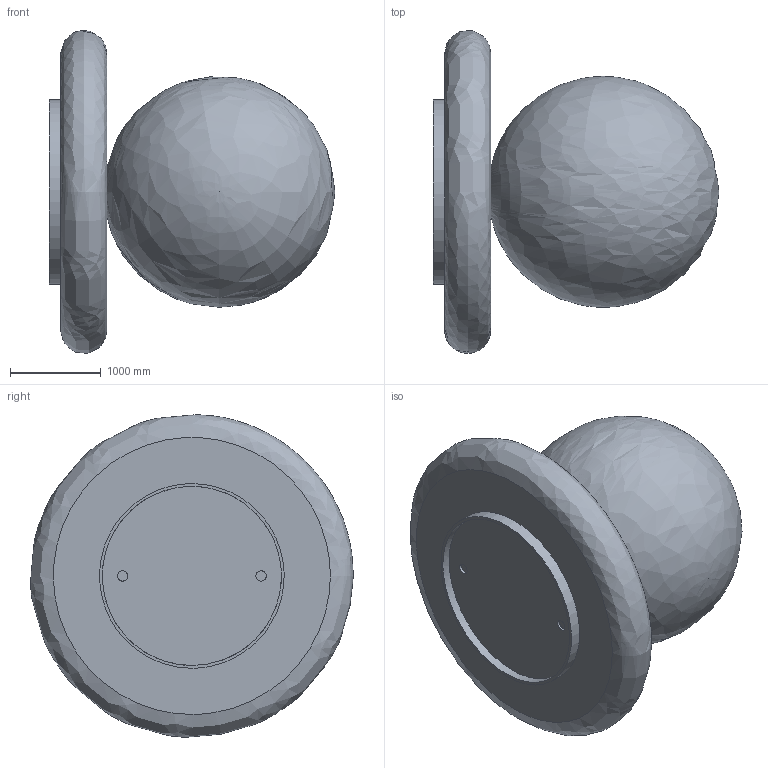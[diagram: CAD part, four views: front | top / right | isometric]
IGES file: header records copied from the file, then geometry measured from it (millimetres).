
Global section: file name: Novi Jade Wall Lamp; native system: AutoCAD 2022 - 简体中文 (Simplified Chinese),62HAuto; preprocessor: desk Translation Framework DWG producer (atf_dwg_producer); organization: unknown; date: 20250822.164338; units: inch
Bounding box: 3144.22 x 3552.16 x 3548.98 mm (x, y, z)
Volume: 13507986395.2 mm3; surface area: 55560946.3 mm2
Topology: 6 solids, 6 shells, 80 faces, 201 edges, 135 vertices
Faces by surface type: bspline 80
